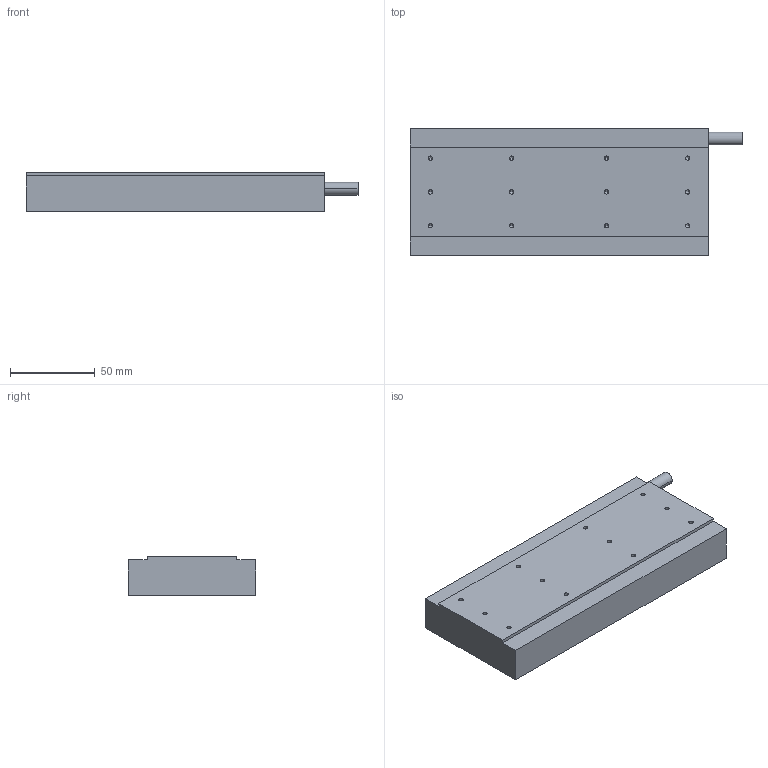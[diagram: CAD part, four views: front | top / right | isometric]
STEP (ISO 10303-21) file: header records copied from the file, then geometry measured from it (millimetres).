
FILE_DESCRIPTION (( 'STEP AP214' ), '1' );
FILE_NAME ('D-CJM050D.STEP', '2025-09-05T09:24:45', ( '' ), ( '' ), 'SwSTEP 2.0', 'SolidWorks 2016', '' );
FILE_SCHEMA (( 'AUTOMOTIVE_DESIGN' ));
Length unit declared in the file: millimetre
Products named in the file (1): D-CJM050D
Bounding box: 196 x 75 x 23.2 mm (x, y, z)
Volume: 298894.3 mm3; surface area: 39215.6 mm2
Topology: 1 solids, 1 shells, 85 faces, 206 edges, 108 vertices
Faces by surface type: cone 40, cylinder 34, plane 11
Entity records: 2574 total; most frequent: DIRECTION 422, CARTESIAN_POINT 368, ORIENTED_EDGE 348, EDGE_CURVE 174, AXIS2_PLACEMENT_3D 162, VERTEX_POINT 108, EDGE_LOOP 102, VECTOR 98
